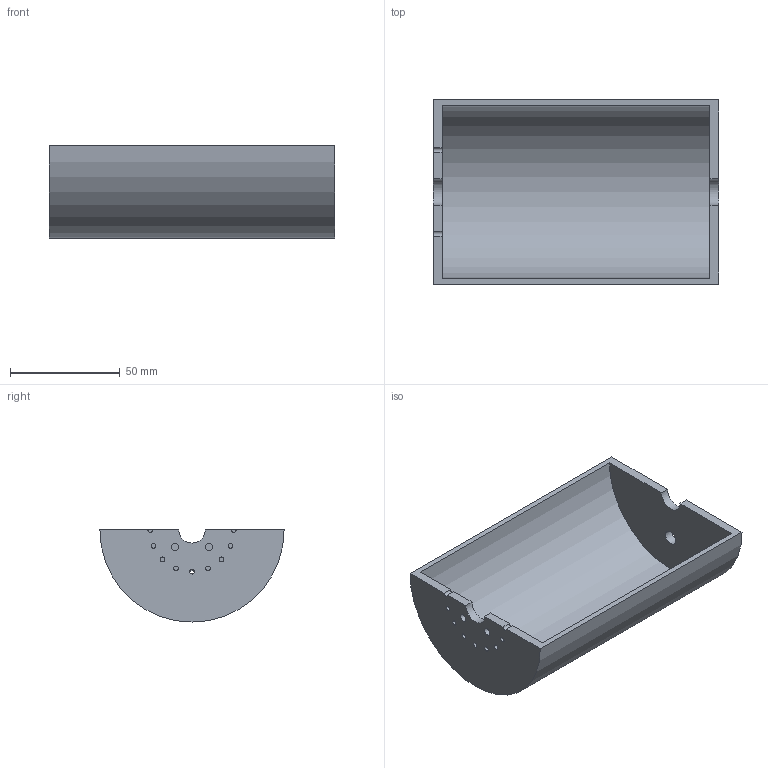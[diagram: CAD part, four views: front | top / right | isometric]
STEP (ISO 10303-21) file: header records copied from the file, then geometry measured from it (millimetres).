
FILE_DESCRIPTION(('Open CASCADE Model'),'2;1');
FILE_NAME('Open CASCADE Shape Model','2026-10-25T05:18:02',('Author'),( 'Open CASCADE'),'Open CASCADE STEP processor 7.9','Open CASCADE 7.9' ,'Unknown');
FILE_SCHEMA(('AUTOMOTIVE_DESIGN { 1 0 10303 214 1 1 1 1 }'));
Length unit declared in the file: millimetre
Products named in the file (1): Open CASCADE STEP translator 7.9 97
Bounding box: 130 x 84 x 42 mm (x, y, z)
Volume: 60429.6 mm3; surface area: 44052.9 mm2
Topology: 1 solids, 1 shells, 24 faces, 66 edges, 44 vertices
Faces by surface type: cylinder 16, plane 8
Full cylindrical faces by diameter (mm): 2.2 x7, 3.4 x2, 6.6 x1
Entity records: 1690 total; most frequent: DIRECTION 280, CARTESIAN_POINT 267, LINE 134, VECTOR 134, ORIENTED_EDGE 132, PCURVE 132, DEFINITIONAL_REPRESENTATION 132, EDGE_CURVE 66
